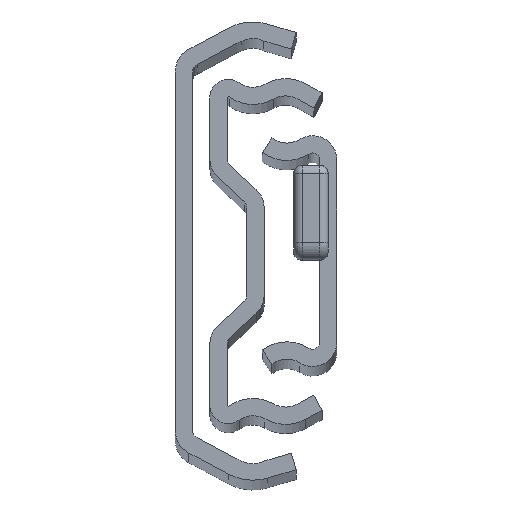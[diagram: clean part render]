
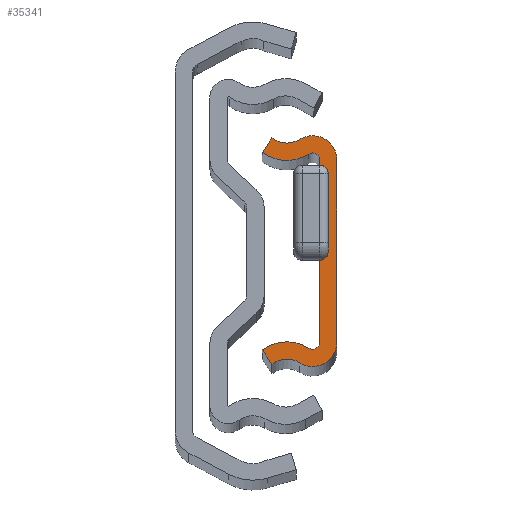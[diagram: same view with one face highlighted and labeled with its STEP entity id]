
A CAD part, top view. The second image highlights one B-rep face of the part: STEP entity #35341.
In plain terms, the highlighted planar face has unit normal (0, 0, 1).
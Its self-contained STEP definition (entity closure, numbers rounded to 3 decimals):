
#47 = CARTESIAN_POINT ( 'NONE',  ( -1.47, -15.294, 0. ) ) ;
#148 = DIRECTION ( 'NONE',  ( 0., 0., -1. ) ) ;
#402 = AXIS2_PLACEMENT_3D ( 'NONE', #25525, #8912, #22781 ) ;
#433 = EDGE_CURVE ( 'NONE', #1060, #4044, #10412, .T. ) ;
#1060 = VERTEX_POINT ( 'NONE', #18884 ) ;
#1668 = CARTESIAN_POINT ( 'NONE',  ( 2.306, -10.55, 0. ) ) ;
#2318 = DIRECTION ( 'NONE',  ( -0.555, -0.832, 0. ) ) ;
#2374 = EDGE_CURVE ( 'NONE', #14540, #1060, #23962, .T. ) ;
#2472 = VERTEX_POINT ( 'NONE', #14322 ) ;
#2684 = VECTOR ( 'NONE', #31487, 1000. ) ;
#4044 = VERTEX_POINT ( 'NONE', #14577 ) ;
#4362 = EDGE_CURVE ( 'NONE', #19603, #9531, #20839, .T. ) ;
#4762 = VERTEX_POINT ( 'NONE', #31653 ) ;
#5504 = ORIENTED_EDGE ( 'NONE', *, *, #11718, .T. ) ;
#5644 = DIRECTION ( 'NONE',  ( -1., 0., 0. ) ) ;
#5730 = EDGE_CURVE ( 'NONE', #4762, #27077, #25003, .T. ) ;
#5826 = EDGE_CURVE ( 'NONE', #20552, #17342, #13436, .T. ) ;
#5992 = ORIENTED_EDGE ( 'NONE', *, *, #2374, .T. ) ;
#6126 = EDGE_CURVE ( 'NONE', #4044, #11761, #30738, .T. ) ;
#6847 = DIRECTION ( 'NONE',  ( 1., 0., 0. ) ) ;
#7075 = DIRECTION ( 'NONE',  ( 0., 0., 1. ) ) ;
#7225 = CIRCLE ( 'NONE', #26888, 2.8 ) ;
#7293 = ORIENTED_EDGE ( 'NONE', *, *, #5826, .T. ) ;
#7468 = CARTESIAN_POINT ( 'NONE',  ( -1.47, 15.294, 0. ) ) ;
#8013 = PLANE ( 'NONE',  #26388 ) ;
#8177 = CIRCLE ( 'NONE', #17600, 4.8 ) ;
#8912 = DIRECTION ( 'NONE',  ( 0., 0., -1. ) ) ;
#9531 = VERTEX_POINT ( 'NONE', #29389 ) ;
#9813 = ORIENTED_EDGE ( 'NONE', *, *, #5730, .T. ) ;
#9914 = DIRECTION ( 'NONE',  ( -1., 0., 0. ) ) ;
#10023 = ORIENTED_EDGE ( 'NONE', *, *, #11220, .T. ) ;
#10211 = VECTOR ( 'NONE', #17109, 1000. ) ;
#10251 = ORIENTED_EDGE ( 'NONE', *, *, #22158, .T. ) ;
#10362 = CARTESIAN_POINT ( 'NONE',  ( -4.306, 11.422, 0. ) ) ;
#10412 = CIRCLE ( 'NONE', #29087, 2.8 ) ;
#11126 = VECTOR ( 'NONE', #18426, 1000. ) ;
#11139 = VERTEX_POINT ( 'NONE', #20569 ) ;
#11220 = EDGE_CURVE ( 'NONE', #11139, #4762, #8177, .T. ) ;
#11718 = EDGE_CURVE ( 'NONE', #11761, #11139, #31642, .T. ) ;
#11761 = VERTEX_POINT ( 'NONE', #29482 ) ;
#11833 = FACE_OUTER_BOUND ( 'NONE', #29977, .T. ) ;
#12002 = AXIS2_PLACEMENT_3D ( 'NONE', #30650, #148, #5644 ) ;
#12528 = EDGE_CURVE ( 'NONE', #2472, #19603, #31563, .T. ) ;
#12871 = CARTESIAN_POINT ( 'NONE',  ( -1.47, -15.294, 0. ) ) ;
#12995 = ORIENTED_EDGE ( 'NONE', *, *, #433, .T. ) ;
#13321 = CARTESIAN_POINT ( 'NONE',  ( 1.081, -11.228, 0. ) ) ;
#13436 = CIRCLE ( 'NONE', #402, 0.8 ) ;
#13499 = AXIS2_PLACEMENT_3D ( 'NONE', #12871, #18743, #34890 ) ;
#14322 = CARTESIAN_POINT ( 'NONE',  ( -4.306, -11.422, 0. ) ) ;
#14540 = VERTEX_POINT ( 'NONE', #16605 ) ;
#14577 = CARTESIAN_POINT ( 'NONE',  ( 0.018, 12.922, 0. ) ) ;
#14597 = CARTESIAN_POINT ( 'NONE',  ( 1.506, -10.55, 0. ) ) ;
#15142 = EDGE_CURVE ( 'NONE', #27077, #20552, #20132, .T. ) ;
#15253 = CARTESIAN_POINT ( 'NONE',  ( 2.306, 10.55, 0. ) ) ;
#15660 = CARTESIAN_POINT ( 'NONE',  ( 4.306, -10.55, 0. ) ) ;
#16172 = DIRECTION ( 'NONE',  ( 0., 0., 1. ) ) ;
#16367 = AXIS2_PLACEMENT_3D ( 'NONE', #27841, #17071, #33180 ) ;
#16517 = DIRECTION ( 'NONE',  ( -1., 0., 0. ) ) ;
#16605 = CARTESIAN_POINT ( 'NONE',  ( 4.306, -10.55, 0. ) ) ;
#17071 = DIRECTION ( 'NONE',  ( 0., 0., -1. ) ) ;
#17109 = DIRECTION ( 'NONE',  ( 0.555, -0.832, 0. ) ) ;
#17153 = ORIENTED_EDGE ( 'NONE', *, *, #15142, .T. ) ;
#17342 = VERTEX_POINT ( 'NONE', #13321 ) ;
#17600 = AXIS2_PLACEMENT_3D ( 'NONE', #34283, #7075, #9914 ) ;
#18426 = DIRECTION ( 'NONE',  ( 0., 1., 0. ) ) ;
#18506 = CARTESIAN_POINT ( 'NONE',  ( -3.194, -13.089, 0. ) ) ;
#18743 = DIRECTION ( 'NONE',  ( 0., 0., 1. ) ) ;
#18884 = CARTESIAN_POINT ( 'NONE',  ( 4.306, 10.55, 0. ) ) ;
#19102 = DIRECTION ( 'NONE',  ( 1., 0., 0. ) ) ;
#19603 = VERTEX_POINT ( 'NONE', #18506 ) ;
#19625 = EDGE_CURVE ( 'NONE', #17342, #2472, #24958, .T. ) ;
#19799 = ORIENTED_EDGE ( 'NONE', *, *, #12528, .T. ) ;
#20132 = LINE ( 'NONE', #1668, #2684 ) ;
#20279 = AXIS2_PLACEMENT_3D ( 'NONE', #7468, #27413, #16517 ) ;
#20552 = VERTEX_POINT ( 'NONE', #28708 ) ;
#20569 = CARTESIAN_POINT ( 'NONE',  ( -4.306, 11.422, 0. ) ) ;
#20839 = CIRCLE ( 'NONE', #16367, 2.8 ) ;
#21586 = CARTESIAN_POINT ( 'NONE',  ( 1.506, 10.55, 0. ) ) ;
#22158 = EDGE_CURVE ( 'NONE', #9531, #14540, #7225, .T. ) ;
#22781 = DIRECTION ( 'NONE',  ( 1., 0., 0. ) ) ;
#23789 = ORIENTED_EDGE ( 'NONE', *, *, #4362, .T. ) ;
#23962 = LINE ( 'NONE', #15660, #11126 ) ;
#24548 = DIRECTION ( 'NONE',  ( -1., 0., 0. ) ) ;
#24958 = CIRCLE ( 'NONE', #13499, 4.8 ) ;
#25003 = CIRCLE ( 'NONE', #12002, 0.8 ) ;
#25525 = CARTESIAN_POINT ( 'NONE',  ( 1.506, -10.55, 0. ) ) ;
#25954 = ORIENTED_EDGE ( 'NONE', *, *, #6126, .T. ) ;
#26388 = AXIS2_PLACEMENT_3D ( 'NONE', #47, #29873, #19102 ) ;
#26888 = AXIS2_PLACEMENT_3D ( 'NONE', #14597, #28228, #6847 ) ;
#27077 = VERTEX_POINT ( 'NONE', #15253 ) ;
#27413 = DIRECTION ( 'NONE',  ( 0., 0., -1. ) ) ;
#27841 = CARTESIAN_POINT ( 'NONE',  ( -1.47, -15.294, 0. ) ) ;
#27885 = CARTESIAN_POINT ( 'NONE',  ( -4.306, -11.422, 0. ) ) ;
#28228 = DIRECTION ( 'NONE',  ( 0., 0., 1. ) ) ;
#28708 = CARTESIAN_POINT ( 'NONE',  ( 2.306, -10.55, 0. ) ) ;
#29087 = AXIS2_PLACEMENT_3D ( 'NONE', #21586, #16172, #24548 ) ;
#29389 = CARTESIAN_POINT ( 'NONE',  ( 0.018, -12.922, 0. ) ) ;
#29482 = CARTESIAN_POINT ( 'NONE',  ( -3.194, 13.089, 0. ) ) ;
#29873 = DIRECTION ( 'NONE',  ( 0., 0., 1. ) ) ;
#29977 = EDGE_LOOP ( 'NONE', ( #23789, #10251, #5992, #12995, #25954, #5504, #10023, #9813, #17153, #7293, #33429, #19799 ) ) ;
#30650 = CARTESIAN_POINT ( 'NONE',  ( 1.506, 10.55, 0. ) ) ;
#30738 = CIRCLE ( 'NONE', #20279, 2.8 ) ;
#31487 = DIRECTION ( 'NONE',  ( 0., -1., 0. ) ) ;
#31563 = LINE ( 'NONE', #27885, #10211 ) ;
#31642 = LINE ( 'NONE', #10362, #34195 ) ;
#31653 = CARTESIAN_POINT ( 'NONE',  ( 1.081, 11.228, 0. ) ) ;
#33180 = DIRECTION ( 'NONE',  ( 1., 0., 0. ) ) ;
#33429 = ORIENTED_EDGE ( 'NONE', *, *, #19625, .T. ) ;
#34195 = VECTOR ( 'NONE', #2318, 1000. ) ;
#34283 = CARTESIAN_POINT ( 'NONE',  ( -1.47, 15.294, 0. ) ) ;
#34890 = DIRECTION ( 'NONE',  ( 1., 0., 0. ) ) ;
#35341 = ADVANCED_FACE ( 'Face2', ( #11833 ), #8013, .T. ) ;
